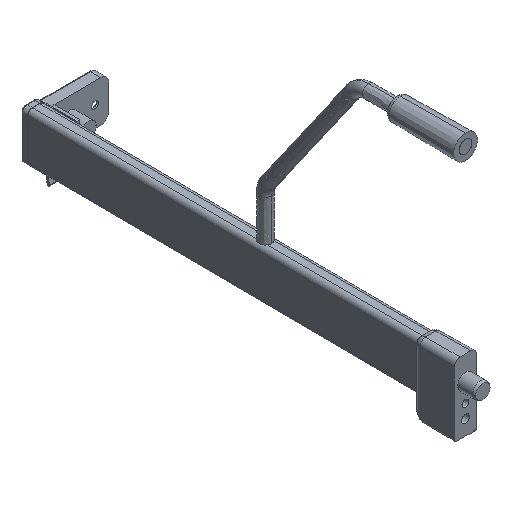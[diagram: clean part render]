
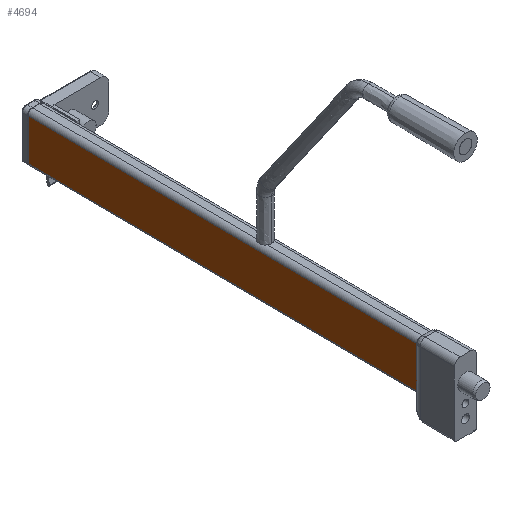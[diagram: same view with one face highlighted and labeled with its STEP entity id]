
A CAD part, isometric view. The second image highlights one B-rep face of the part: STEP entity #4694.
In plain terms, the highlighted planar face has unit normal (-1, 0, 0).
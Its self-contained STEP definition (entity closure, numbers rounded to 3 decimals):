
#594 = CARTESIAN_POINT ( 'NONE',  ( -5.25, 25., 15. ) ) ;
#595 = DIRECTION ( 'NONE',  ( 0., 0., -1. ) ) ;
#596 = CARTESIAN_POINT ( 'NONE',  ( -5.25, 270.4, -13.567 ) ) ;
#597 = DIRECTION ( 'NONE',  ( 0., 0., -1. ) ) ;
#604 = CARTESIAN_POINT ( 'NONE',  ( -5.25, 304.101, 12.432 ) ) ;
#605 = DIRECTION ( 'NONE',  ( 0., -1., -0.007 ) ) ;
#765 = EDGE_CURVE ( 'NONE', #1156, #1200, #1362, .T. ) ;
#766 = EDGE_CURVE ( 'NONE', #1193, #1163, #1364, .T. ) ;
#769 = EDGE_CURVE ( 'NONE', #1193, #1156, #1371, .T. ) ;
#781 = EDGE_CURVE ( 'NONE', #1163, #1200, #1392, .T. ) ;
#1057 = AXIS2_PLACEMENT_3D ( 'NONE', #3611, #3612, #3613 ) ;
#1156 = VERTEX_POINT ( 'NONE', #4382 ) ;
#1163 = VERTEX_POINT ( 'NONE', #4389 ) ;
#1193 = VERTEX_POINT ( 'NONE', #4188 ) ;
#1200 = VERTEX_POINT ( 'NONE', #4195 ) ;
#1362 = LINE ( 'NONE', #594, #1363 ) ;
#1363 = VECTOR ( 'NONE', #595, 1000. ) ;
#1364 = LINE ( 'NONE', #596, #1365 ) ;
#1365 = VECTOR ( 'NONE', #597, 1000. ) ;
#1371 = LINE ( 'NONE', #604, #1373 ) ;
#1373 = VECTOR ( 'NONE', #605, 1000. ) ;
#1392 = LINE ( 'NONE', #4733, #1393 ) ;
#1393 = VECTOR ( 'NONE', #4734, 1000. ) ;
#1973 = FACE_OUTER_BOUND ( 'NONE', #4661, .T. ) ;
#3128 = ORIENTED_EDGE ( 'NONE', *, *, #766, .T. ) ;
#3129 = ORIENTED_EDGE ( 'NONE', *, *, #781, .T. ) ;
#3130 = ORIENTED_EDGE ( 'NONE', *, *, #765, .F. ) ;
#3131 = ORIENTED_EDGE ( 'NONE', *, *, #769, .F. ) ;
#3610 = PLANE ( 'NONE',  #1057 ) ;
#3611 = CARTESIAN_POINT ( 'NONE',  ( -5.25, 304.281, -13.567 ) ) ;
#3612 = DIRECTION ( 'NONE',  ( 1., 0., 0. ) ) ;
#3613 = DIRECTION ( 'NONE',  ( 0., 0., -1. ) ) ;
#4188 = CARTESIAN_POINT ( 'NONE',  ( -5.25, 270.4, 12.199 ) ) ;
#4195 = CARTESIAN_POINT ( 'NONE',  ( -5.25, 25., -15.5 ) ) ;
#4382 = CARTESIAN_POINT ( 'NONE',  ( -5.25, 25., 10.501 ) ) ;
#4389 = CARTESIAN_POINT ( 'NONE',  ( -5.25, 270.4, -13.801 ) ) ;
#4661 = EDGE_LOOP ( 'NONE', ( #3128, #3129, #3130, #3131 ) ) ;
#4694 = ADVANCED_FACE ( 'NONE', ( #1973 ), #3610, .F. ) ;
#4733 = CARTESIAN_POINT ( 'NONE',  ( -5.25, 304.281, -13.567 ) ) ;
#4734 = DIRECTION ( 'NONE',  ( 0., -1., -0.007 ) ) ;
